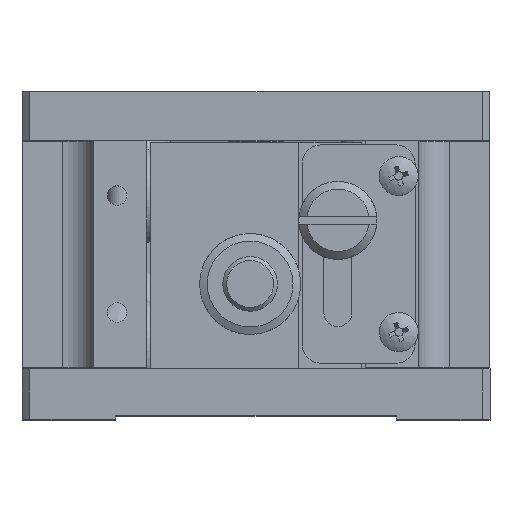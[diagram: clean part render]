
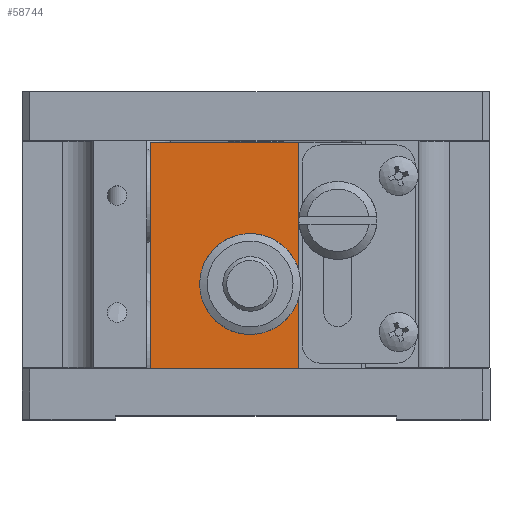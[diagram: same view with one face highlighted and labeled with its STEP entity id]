
A CAD part, top view. The second image highlights one B-rep face of the part: STEP entity #58744.
In plain terms, the highlighted planar face has unit normal (0, 0, 1).
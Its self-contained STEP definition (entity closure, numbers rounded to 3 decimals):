
#2309 = EDGE_CURVE ( 'NONE', #15738, #60693, #58255, .T. ) ;
#4044 = CARTESIAN_POINT ( 'NONE',  ( 20.266, 29.457, 73.948 ) ) ;
#7041 = CARTESIAN_POINT ( 'NONE',  ( 39.266, 58.457, 73.948 ) ) ;
#8328 = EDGE_CURVE ( 'NONE', #15738, #40464, #46190, .T. ) ;
#9979 = VECTOR ( 'NONE', #23549, 1000. ) ;
#10518 = PLANE ( 'NONE',  #67981 ) ;
#14601 = AXIS2_PLACEMENT_3D ( 'NONE', #15530, #38047, #44326 ) ;
#15180 = CARTESIAN_POINT ( 'NONE',  ( 20.266, 58.457, 73.948 ) ) ;
#15530 = CARTESIAN_POINT ( 'NONE',  ( 33.016, 40.257, 73.948 ) ) ;
#15738 = VERTEX_POINT ( 'NONE', #4044 ) ;
#16139 = EDGE_LOOP ( 'NONE', ( #41239, #23729, #21305, #54373 ) ) ;
#19337 = CIRCLE ( 'NONE', #14601, 4.75 ) ;
#19578 = CARTESIAN_POINT ( 'NONE',  ( 39.266, 58.457, 73.948 ) ) ;
#21305 = ORIENTED_EDGE ( 'NONE', *, *, #8328, .T. ) ;
#22546 = EDGE_CURVE ( 'NONE', #60693, #68597, #54028, .T. ) ;
#23549 = DIRECTION ( 'NONE',  ( 0., 1., 0. ) ) ;
#23729 = ORIENTED_EDGE ( 'NONE', *, *, #2309, .F. ) ;
#24008 = EDGE_CURVE ( 'NONE', #33005, #33005, #19337, .T. ) ;
#25059 = VECTOR ( 'NONE', #64394, 1000. ) ;
#26712 = VECTOR ( 'NONE', #32758, 1000. ) ;
#32031 = CARTESIAN_POINT ( 'NONE',  ( 19.766, 29.457, 73.948 ) ) ;
#32245 = ORIENTED_EDGE ( 'NONE', *, *, #24008, .F. ) ;
#32758 = DIRECTION ( 'NONE',  ( 1., 0., 0. ) ) ;
#33005 = VERTEX_POINT ( 'NONE', #39272 ) ;
#33038 = CARTESIAN_POINT ( 'NONE',  ( 19.766, 58.457, 73.948 ) ) ;
#38047 = DIRECTION ( 'NONE',  ( 0., 0., 1. ) ) ;
#39272 = CARTESIAN_POINT ( 'NONE',  ( 37.766, 40.257, 73.948 ) ) ;
#40464 = VERTEX_POINT ( 'NONE', #71224 ) ;
#41033 = VECTOR ( 'NONE', #63185, 1000. ) ;
#41239 = ORIENTED_EDGE ( 'NONE', *, *, #22546, .F. ) ;
#41852 = CARTESIAN_POINT ( 'NONE',  ( 19.766, 58.457, 73.948 ) ) ;
#44326 = DIRECTION ( 'NONE',  ( 1., 0., 0. ) ) ;
#44859 = FACE_OUTER_BOUND ( 'NONE', #16139, .T. ) ;
#46190 = LINE ( 'NONE', #32031, #26712 ) ;
#54028 = LINE ( 'NONE', #41852, #25059 ) ;
#54373 = ORIENTED_EDGE ( 'NONE', *, *, #72842, .F. ) ;
#58255 = LINE ( 'NONE', #67900, #9979 ) ;
#58744 = ADVANCED_FACE ( 'NONE', ( #61129, #44859 ), #10518, .F. ) ;
#60693 = VERTEX_POINT ( 'NONE', #15180 ) ;
#61129 = FACE_BOUND ( 'NONE', #65230, .T. ) ;
#63185 = DIRECTION ( 'NONE',  ( 0., -1., 0. ) ) ;
#64394 = DIRECTION ( 'NONE',  ( 1., 0., 0. ) ) ;
#65230 = EDGE_LOOP ( 'NONE', ( #32245 ) ) ;
#67387 = DIRECTION ( 'NONE',  ( -1., 0., 0. ) ) ;
#67900 = CARTESIAN_POINT ( 'NONE',  ( 20.266, 29.457, 73.948 ) ) ;
#67981 = AXIS2_PLACEMENT_3D ( 'NONE', #33038, #72583, #67387 ) ;
#68597 = VERTEX_POINT ( 'NONE', #19578 ) ;
#69085 = LINE ( 'NONE', #7041, #41033 ) ;
#71224 = CARTESIAN_POINT ( 'NONE',  ( 39.266, 29.457, 73.948 ) ) ;
#72583 = DIRECTION ( 'NONE',  ( 0., 0., -1. ) ) ;
#72842 = EDGE_CURVE ( 'NONE', #68597, #40464, #69085, .T. ) ;
